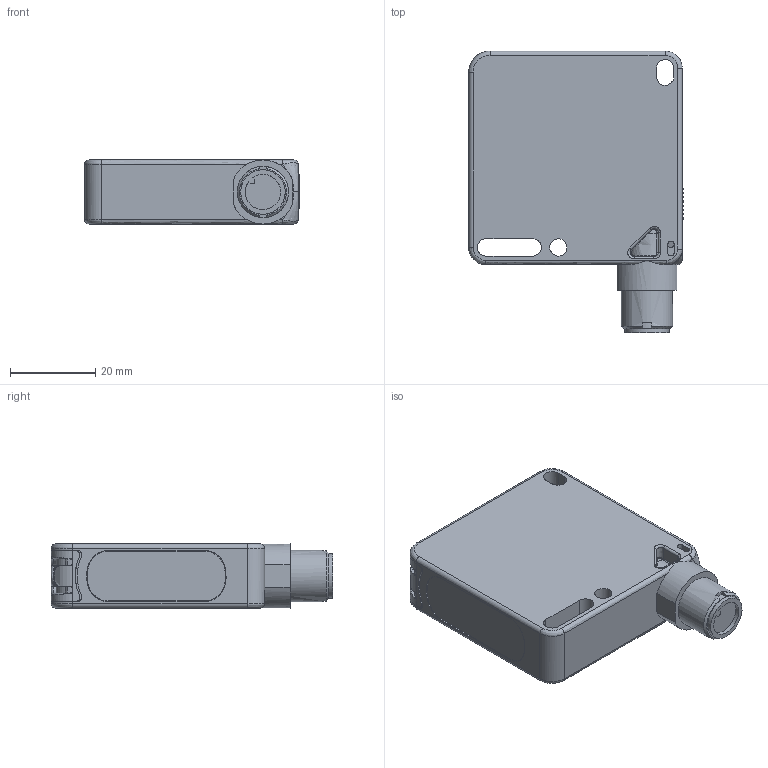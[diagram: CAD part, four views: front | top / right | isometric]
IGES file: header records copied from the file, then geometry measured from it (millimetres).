
Global section: file name: D:\Studi\DSD-0184.igs; preprocessor: I-DEAS 3D IGES Translator 11; date: 20080901.123635; units: millimetre
Bounding box: 50.25 x 66 x 15 mm (x, y, z)
Volume: 37258.7 mm3; surface area: 11034.8 mm2
Topology: 2 solids, 4 shells, 324 faces, 853 edges, 569 vertices
Faces by surface type: bspline 324
